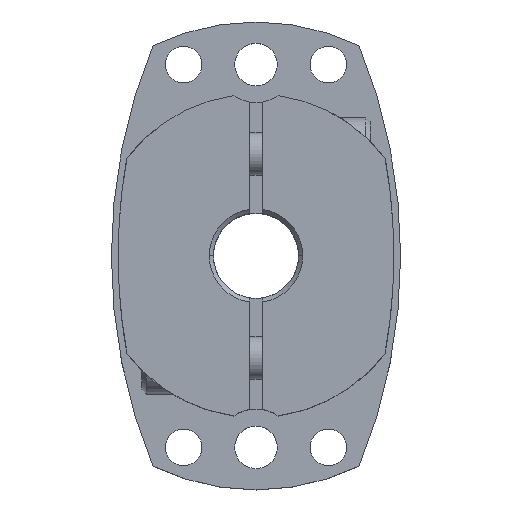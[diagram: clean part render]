
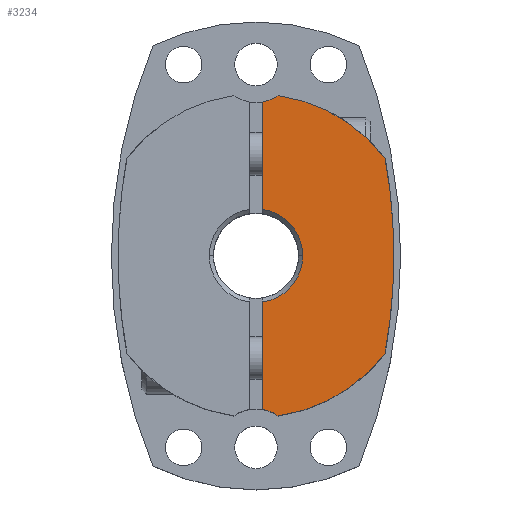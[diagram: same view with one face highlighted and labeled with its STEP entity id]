
A CAD part, top view. The second image highlights one B-rep face of the part: STEP entity #3234.
In plain terms, the highlighted planar face has unit normal (0, 0, 1).
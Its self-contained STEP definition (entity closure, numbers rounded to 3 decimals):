
#225=CARTESIAN_POINT('',(5.5,0.,17.0));
#226=VERTEX_POINT('',#225);
#235=CARTESIAN_POINT('',(0.75,5.449,17.0));
#236=VERTEX_POINT('',#235);
#237=CARTESIAN_POINT('',(0.0,0.,17.0));
#238=DIRECTION('',(0.0,0.0,1.0));
#239=DIRECTION('',(-1.0,0.0,0.0));
#240=AXIS2_PLACEMENT_3D('',#237,#238,#239);
#241=CIRCLE('',#240,5.5);
#242=EDGE_CURVE('',#226,#236,#241,.T.);
#537=CARTESIAN_POINT('',(16.2,0.,17.0));
#538=VERTEX_POINT('',#537);
#646=CARTESIAN_POINT('',(15.173,11.435,17.0));
#647=VERTEX_POINT('',#646);
#654=CARTESIAN_POINT('',(-48.,0.,17.0));
#655=DIRECTION('',(0.0,0.0,-1.0));
#656=DIRECTION('',(1.0,0.0,0.0));
#657=AXIS2_PLACEMENT_3D('',#654,#655,#656);
#658=CIRCLE('',#657,64.2);
#659=EDGE_CURVE('',#647,#538,#658,.T.);
#2305=CARTESIAN_POINT('',(2.593,18.822,17.0));
#2306=VERTEX_POINT('',#2305);
#2313=CARTESIAN_POINT('',(0.,0.,17.0));
#2314=DIRECTION('',(0.0,0.0,-1.0));
#2315=DIRECTION('',(1.0,0.0,0.0));
#2316=AXIS2_PLACEMENT_3D('',#2313,#2314,#2315);
#2317=CIRCLE('',#2316,19.);
#2318=EDGE_CURVE('',#2306,#647,#2317,.T.);
#2531=CARTESIAN_POINT('',(15.173,-11.435,17.0));
#2532=VERTEX_POINT('',#2531);
#2533=CARTESIAN_POINT('',(-48.,0.,17.0));
#2534=DIRECTION('',(0.0,0.0,-1.0));
#2535=DIRECTION('',(1.0,0.0,0.0));
#2536=AXIS2_PLACEMENT_3D('',#2533,#2534,#2535);
#2537=CIRCLE('',#2536,64.2);
#2538=EDGE_CURVE('',#538,#2532,#2537,.T.);
#2747=CARTESIAN_POINT('',(0.75,18.063,17.0));
#2748=VERTEX_POINT('',#2747);
#2755=CARTESIAN_POINT('',(0.,22.5,17.0));
#2756=DIRECTION('',(0.0,0.0,-1.0));
#2757=DIRECTION('',(1.0,0.0,0.0));
#2758=AXIS2_PLACEMENT_3D('',#2755,#2756,#2757);
#2759=CIRCLE('',#2758,4.5);
#2760=EDGE_CURVE('',#2306,#2748,#2759,.T.);
#2772=CARTESIAN_POINT('',(0.75,-18.063,17.0));
#2773=VERTEX_POINT('',#2772);
#2789=CARTESIAN_POINT('',(2.593,-18.822,17.0));
#2790=VERTEX_POINT('',#2789);
#2797=CARTESIAN_POINT('',(0.,-22.5,17.0));
#2798=DIRECTION('',(0.0,0.0,-1.0));
#2799=DIRECTION('',(1.0,0.0,0.0));
#2800=AXIS2_PLACEMENT_3D('',#2797,#2798,#2799);
#2801=CIRCLE('',#2800,4.5);
#2802=EDGE_CURVE('',#2773,#2790,#2801,.T.);
#3156=CARTESIAN_POINT('',(0.75,-5.449,17.0));
#3157=VERTEX_POINT('',#3156);
#3158=CARTESIAN_POINT('',(0.75,-5.449,17.0));
#3159=DIRECTION('',(0.0,-1.0,0.0));
#3160=VECTOR('',#3159,12.614);
#3161=LINE('',#3158,#3160);
#3162=EDGE_CURVE('',#3157,#2773,#3161,.T.);
#3200=CARTESIAN_POINT('',(0.,0.,17.0));
#3201=DIRECTION('',(0.0,0.0,1.0));
#3202=DIRECTION('',(1.0,0.0,0.0));
#3203=AXIS2_PLACEMENT_3D('',#3200,#3201,#3202);
#3204=PLANE('',#3203);
#3205=ORIENTED_EDGE('',*,*,#2760,.T.);
#3206=CARTESIAN_POINT('',(0.75,18.063,17.0));
#3207=DIRECTION('',(0.0,-1.0,0.0));
#3208=VECTOR('',#3207,12.614);
#3209=LINE('',#3206,#3208);
#3210=EDGE_CURVE('',#2748,#236,#3209,.T.);
#3211=ORIENTED_EDGE('',*,*,#3210,.T.);
#3212=ORIENTED_EDGE('',*,*,#242,.F.);
#3213=CARTESIAN_POINT('',(0.0,0.,17.0));
#3214=DIRECTION('',(0.0,0.0,1.0));
#3215=DIRECTION('',(-1.0,0.0,0.0));
#3216=AXIS2_PLACEMENT_3D('',#3213,#3214,#3215);
#3217=CIRCLE('',#3216,5.5);
#3218=EDGE_CURVE('',#3157,#226,#3217,.T.);
#3219=ORIENTED_EDGE('',*,*,#3218,.F.);
#3220=ORIENTED_EDGE('',*,*,#3162,.T.);
#3221=ORIENTED_EDGE('',*,*,#2802,.T.);
#3222=CARTESIAN_POINT('',(0.,0.0,17.0));
#3223=DIRECTION('',(0.0,0.0,-1.0));
#3224=DIRECTION('',(1.0,0.0,0.0));
#3225=AXIS2_PLACEMENT_3D('',#3222,#3223,#3224);
#3226=CIRCLE('',#3225,19.);
#3227=EDGE_CURVE('',#2532,#2790,#3226,.T.);
#3228=ORIENTED_EDGE('',*,*,#3227,.F.);
#3229=ORIENTED_EDGE('',*,*,#2538,.F.);
#3230=ORIENTED_EDGE('',*,*,#659,.F.);
#3231=ORIENTED_EDGE('',*,*,#2318,.F.);
#3232=EDGE_LOOP('',(#3205,#3211,#3212,#3219,#3220,#3221,#3228,#3229,#3230,#3231));
#3233=FACE_OUTER_BOUND('',#3232,.T.);
#3234=ADVANCED_FACE('',(#3233),#3204,.T.);
